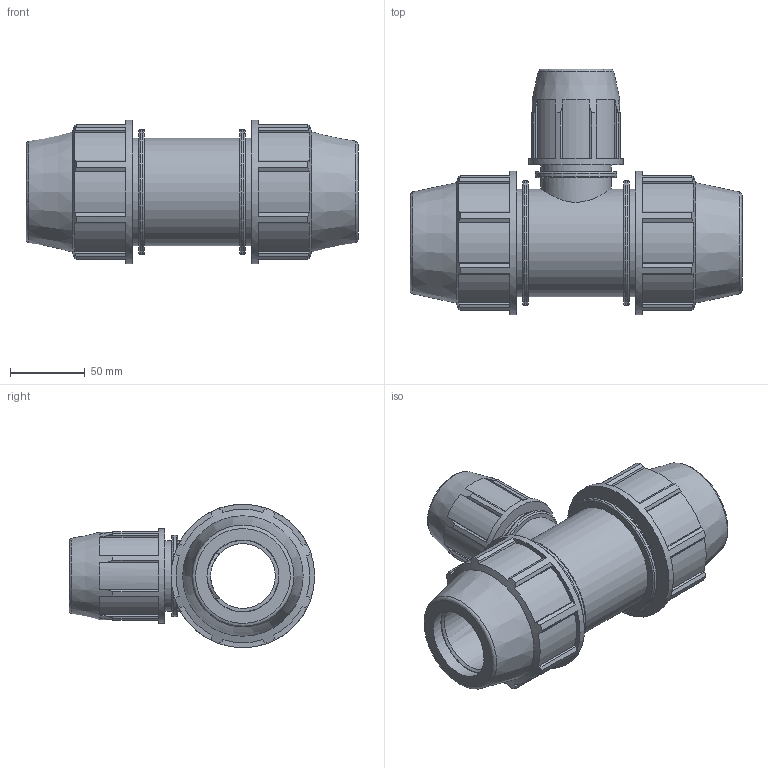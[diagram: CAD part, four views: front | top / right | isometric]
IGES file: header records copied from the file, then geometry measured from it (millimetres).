
Global section: file name: 0734M0015010.ipt; native system: Autodesk Inventor 2019; preprocessor: unknown; author: 12HКирилл; date: 20210826.124804; units: inch
Bounding box: 222 x 164.08 x 96.01 mm (x, y, z)
Volume: 852811.6 mm3; surface area: 138063.6 mm2
Topology: 1 solids, 1 shells, 208 faces, 597 edges, 403 vertices
Faces by surface type: plane 138, cylinder 37, revolution 20, cone 13
Full cylindrical faces by diameter (mm): 47.244 x2, 54.803 x1, 62.992 x1, 72.009 x3, 83.53 x2, 96.012 x2
